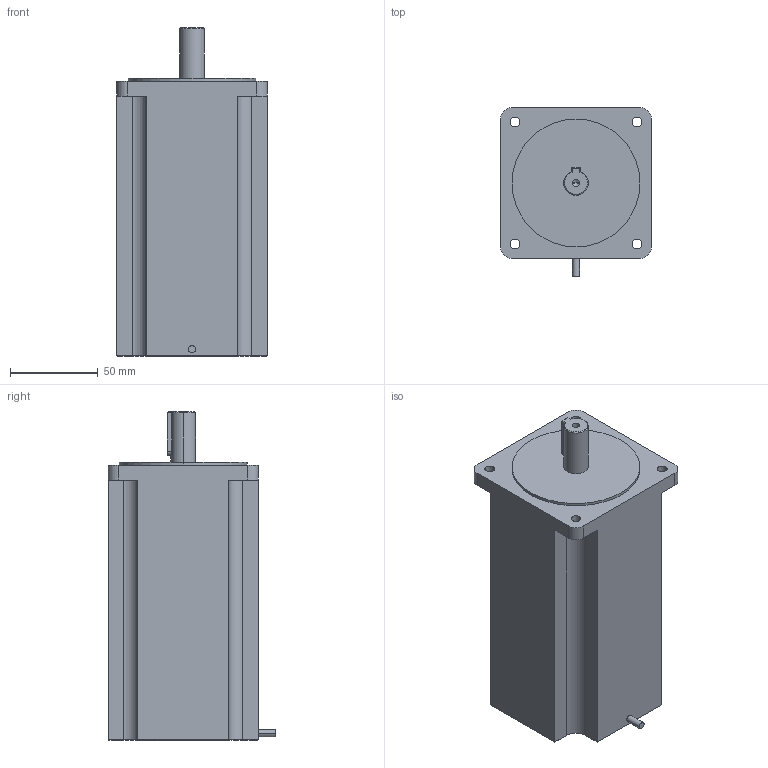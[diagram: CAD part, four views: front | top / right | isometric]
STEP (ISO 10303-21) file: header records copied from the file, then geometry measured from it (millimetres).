
FILE_DESCRIPTION (( 'STEP AP214' ), '1' );
FILE_NAME ('3S85Q-040F7.STEP', '2021-03-23T07:30:43', ( '' ), ( '' ), 'SwSTEP 2.0', 'SolidWorks 2020', '' );
FILE_SCHEMA (( 'AUTOMOTIVE_DESIGN' ));
Length unit declared in the file: millimetre
Products named in the file (1): 3S85Q-040F7
Bounding box: 85.85 x 95.85 x 187.5 mm (x, y, z)
Volume: 1003856.1 mm3; surface area: 68817 mm2
Topology: 1 solids, 1 shells, 74 faces, 183 edges, 113 vertices
Faces by surface type: plane 39, cylinder 26, cone 9
Entity records: 2259 total; most frequent: CARTESIAN_POINT 405, DIRECTION 385, ORIENTED_EDGE 362, EDGE_CURVE 181, AXIS2_PLACEMENT_3D 133, LINE 119, VECTOR 119, VERTEX_POINT 113
